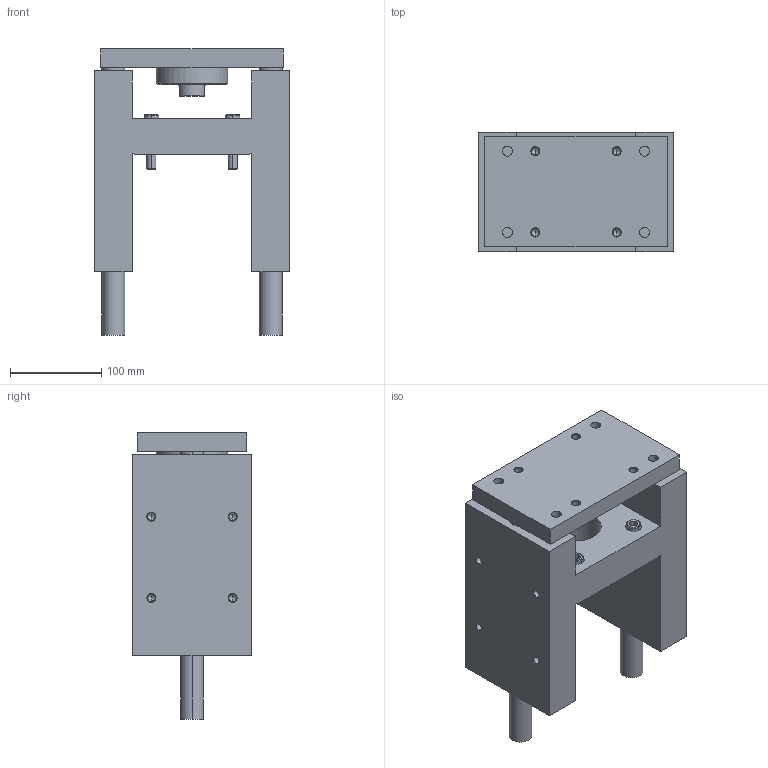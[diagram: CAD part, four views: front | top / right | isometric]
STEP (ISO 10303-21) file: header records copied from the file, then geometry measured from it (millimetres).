
FILE_DESCRIPTION (( 'STEP AP203' ), '1' );
FILE_NAME ('GB100-50.STEP', '2020-04-24T13:41:30', ( '' ), ( '' ), 'SwSTEP 2.0', 'SolidWorks 2019', '' );
FILE_SCHEMA (( 'CONFIG_CONTROL_DESIGN' ));
Length unit declared in the file: millimetre
Products named in the file (1): GB100-50
Bounding box: 213 x 130 x 313 mm (x, y, z)
Volume: 3541459.2 mm3; surface area: 382633.6 mm2
Topology: 6 solids, 6 shells, 329 faces, 728 edges, 412 vertices
Faces by surface type: cone 134, cylinder 98, plane 97
Entity records: 9631 total; most frequent: CARTESIAN_POINT 2242, DIRECTION 1662, ORIENTED_EDGE 1392, EDGE_CURVE 696, AXIS2_PLACEMENT_3D 664, VERTEX_POINT 412, EDGE_LOOP 392, VECTOR 334
